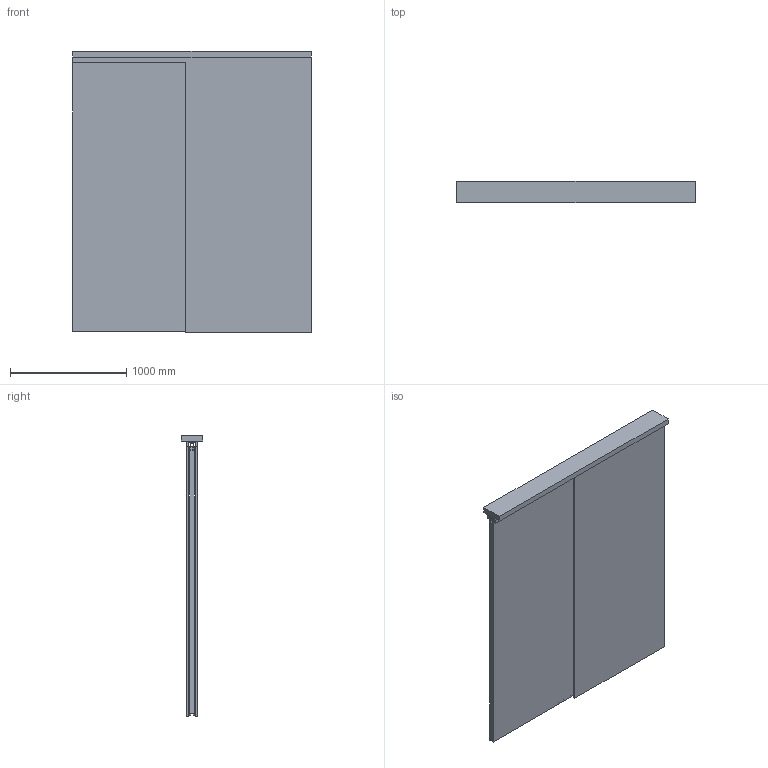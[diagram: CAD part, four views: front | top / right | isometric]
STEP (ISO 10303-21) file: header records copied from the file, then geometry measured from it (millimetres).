
FILE_DESCRIPTION(('STEP AP242'),'1');
FILE_NAME('OPO_65.080.32_volu_3d.stp','2026-01-14T05:30:19',(' '),(' '),'Spatial InterOp 3D',' ',' ');
FILE_SCHEMA(('AP242_MANAGED_MODEL_BASED_3D_ENGINEERING_MIM_LF {1 0 10303 442 1 1 4}'));
Length unit declared in the file: millimetre
Products named in the file (1): 1
Bounding box: 2050 x 188 x 2418 mm (x, y, z)
Volume: 212088598 mm3; surface area: 17768491.1 mm2
Topology: 7 solids, 7 shells, 314 faces, 838 edges, 554 vertices
Faces by surface type: plane 250, cylinder 64
Entity records: 12246 total; most frequent: CARTESIAN_POINT 1713, ORIENTED_EDGE 1676, DIRECTION 1608, EDGE_CURVE 838, LINE 710, VECTOR 710, VERTEX_POINT 554, AXIS2_PLACEMENT_3D 449
